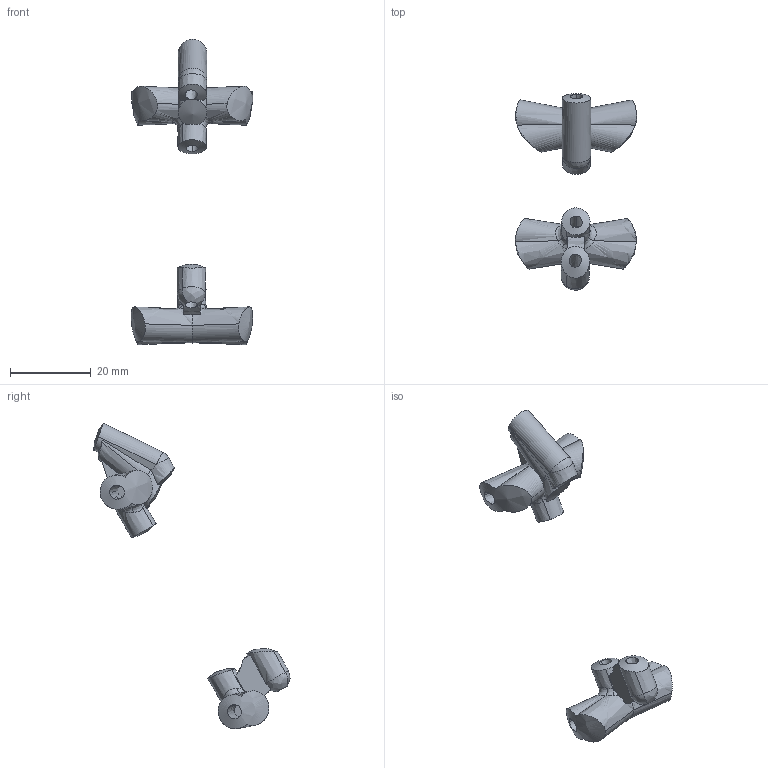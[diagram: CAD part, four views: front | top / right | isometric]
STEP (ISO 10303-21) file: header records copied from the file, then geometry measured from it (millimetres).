
FILE_DESCRIPTION(/* description */ (''),/* implementation_level */ '2;1');
FILE_NAME(/* name */ 'RingStructureExtender',/* time_stamp */ '2017-06-28T07:06:07+02:00',/* author */ (''),/* organization */ (''),/* preprocessor_version */ 'ST-DEVELOPER v15',/* originating_system */ '',/* authorisation */ '');
FILE_SCHEMA (('AUTOMOTIVE_DESIGN'));
Length unit declared in the file: millimetre
Products named in the file (1): Document
Bounding box: 30.06 x 48.58 x 75.54 mm (x, y, z)
Volume: 5772.8 mm3; surface area: 4062.5 mm2
Topology: 2 solids, 2 shells, 100 faces, 268 edges, 173 vertices
Faces by surface type: bspline 88, plane 12
Entity records: 9379 total; most frequent: CARTESIAN_POINT 7841, ORIENTED_EDGE 532, EDGE_CURVE 266, VERTEX_POINT 173, B_SPLINE_CURVE_WITH_KNOTS 172, EDGE_LOOP 107, ADVANCED_FACE 100, FACE_OUTER_BOUND 100
